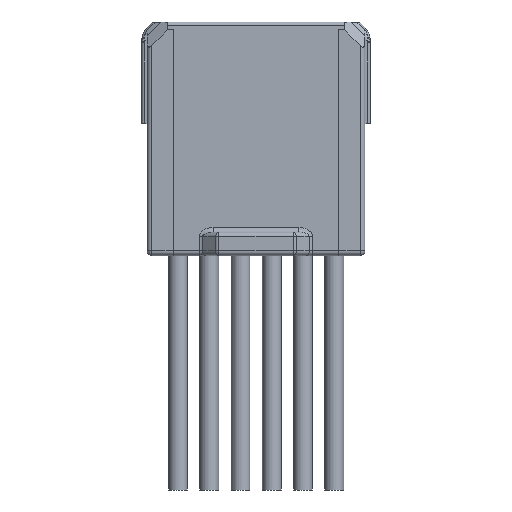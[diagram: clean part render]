
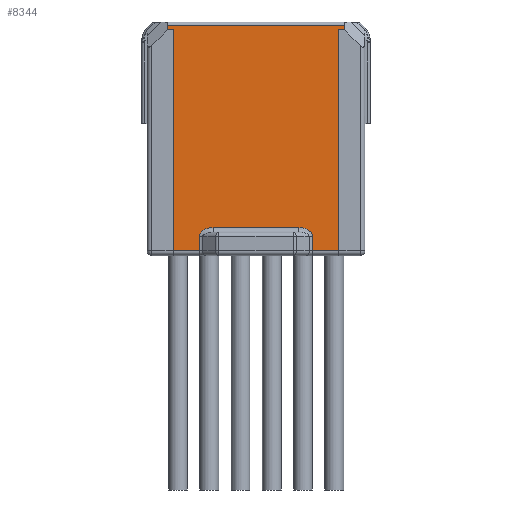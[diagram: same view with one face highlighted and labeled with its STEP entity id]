
A CAD part, front view. The second image highlights one B-rep face of the part: STEP entity #8344.
In plain terms, the highlighted planar face has unit normal (0, -1, 0).
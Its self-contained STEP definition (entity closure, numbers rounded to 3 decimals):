
#83 = VERTEX_POINT ( 'NONE', #7067 ) ;
#476 = CARTESIAN_POINT ( 'NONE',  ( 2.749, 0., -13.15 ) ) ;
#715 = DIRECTION ( 'NONE',  ( -1., 0., 0. ) ) ;
#895 = CARTESIAN_POINT ( 'NONE',  ( -3.62, 0., -13.75 ) ) ;
#1212 =( BOUNDED_CURVE ( )  B_SPLINE_CURVE ( 3, ( #9615, #11994, #9799, #12627 ),
 .UNSPECIFIED., .F., .F. ) 
 B_SPLINE_CURVE_WITH_KNOTS ( ( 4, 4 ),
 ( 0., 1.571 ),
 .UNSPECIFIED. ) 
 CURVE ( )  GEOMETRIC_REPRESENTATION_ITEM ( )  RATIONAL_B_SPLINE_CURVE ( ( 1., 0.805, 0.805, 1. ) ) 
 REPRESENTATION_ITEM ( '' )  );
#1484 = CARTESIAN_POINT ( 'NONE',  ( 6.975, 0., -14.65 ) ) ;
#1527 = DIRECTION ( 'NONE',  ( 1., 0., 0. ) ) ;
#1772 = LINE ( 'NONE', #4763, #14912 ) ;
#2126 = EDGE_CURVE ( 'NONE', #83, #5422, #9607, .T. ) ;
#2258 = EDGE_CURVE ( 'NONE', #3281, #2411, #5616, .T. ) ;
#2411 = VERTEX_POINT ( 'NONE', #16722 ) ;
#2510 = CARTESIAN_POINT ( 'NONE',  ( 3.62, 0., -14.95 ) ) ;
#2842 = EDGE_CURVE ( 'NONE', #4224, #11068, #4931, .T. ) ;
#2905 = AXIS2_PLACEMENT_3D ( 'NONE', #10283, #10604, #9261 ) ;
#3281 = VERTEX_POINT ( 'NONE', #7362 ) ;
#3294 = VECTOR ( 'NONE', #17857, 1000. ) ;
#3525 = FACE_OUTER_BOUND ( 'NONE', #6741, .T. ) ;
#3570 = VERTEX_POINT ( 'NONE', #476 ) ;
#3609 = VECTOR ( 'NONE', #12554, 1000. ) ;
#3653 = LINE ( 'NONE', #2510, #4029 ) ;
#3755 = ORIENTED_EDGE ( 'NONE', *, *, #9395, .F. ) ;
#4004 = ORIENTED_EDGE ( 'NONE', *, *, #2126, .T. ) ;
#4029 = VECTOR ( 'NONE', #7274, 1000. ) ;
#4050 = EDGE_CURVE ( 'NONE', #17384, #83, #3653, .T. ) ;
#4067 = CARTESIAN_POINT ( 'NONE',  ( 5.3, 0., -0.5 ) ) ;
#4172 =( BOUNDED_CURVE ( )  B_SPLINE_CURVE ( 3, ( #4785, #14693, #4209, #895 ),
 .UNSPECIFIED., .F., .T. ) 
 B_SPLINE_CURVE_WITH_KNOTS ( ( 4, 4 ),
 ( 1.571, 3.142 ),
 .UNSPECIFIED. ) 
 CURVE ( )  GEOMETRIC_REPRESENTATION_ITEM ( )  RATIONAL_B_SPLINE_CURVE ( ( 1., 0.805, 0.805, 1. ) ) 
 REPRESENTATION_ITEM ( '' )  );
#4209 = CARTESIAN_POINT ( 'NONE',  ( -3.62, 0., -13.399 ) ) ;
#4210 = ORIENTED_EDGE ( 'NONE', *, *, #4050, .T. ) ;
#4224 = VERTEX_POINT ( 'NONE', #6723 ) ;
#4670 = VECTOR ( 'NONE', #17535, 1000. ) ;
#4676 = PLANE ( 'NONE',  #2905 ) ;
#4763 = CARTESIAN_POINT ( 'NONE',  ( -3.62, 0., -13.45 ) ) ;
#4785 = CARTESIAN_POINT ( 'NONE',  ( -2.749, 0., -13.15 ) ) ;
#4886 = VECTOR ( 'NONE', #10884, 1000. ) ;
#4931 = LINE ( 'NONE', #5619, #10400 ) ;
#4940 = DIRECTION ( 'NONE',  ( -1., 0., 0. ) ) ;
#5286 = DIRECTION ( 'NONE',  ( 0., 0., 1. ) ) ;
#5422 = VERTEX_POINT ( 'NONE', #6225 ) ;
#5456 = ORIENTED_EDGE ( 'NONE', *, *, #12416, .T. ) ;
#5486 = VERTEX_POINT ( 'NONE', #14047 ) ;
#5616 = LINE ( 'NONE', #14448, #10249 ) ;
#5619 = CARTESIAN_POINT ( 'NONE',  ( -5.69, 0., -0.5 ) ) ;
#5893 = CARTESIAN_POINT ( 'NONE',  ( 6.975, 0., -13.15 ) ) ;
#6225 = CARTESIAN_POINT ( 'NONE',  ( 5.3, 0., -14.65 ) ) ;
#6243 = ORIENTED_EDGE ( 'NONE', *, *, #6799, .T. ) ;
#6263 = EDGE_CURVE ( 'NONE', #14240, #2411, #12487, .T. ) ;
#6580 = ORIENTED_EDGE ( 'NONE', *, *, #2842, .F. ) ;
#6677 = DIRECTION ( 'NONE',  ( 1., 0., 0. ) ) ;
#6723 = CARTESIAN_POINT ( 'NONE',  ( -5.3, 0., -0.5 ) ) ;
#6741 = EDGE_LOOP ( 'NONE', ( #14169, #13332, #16433, #6243, #16947, #6580, #8052, #17239, #5456, #3755, #11225, #9238, #4210, #4004 ) ) ;
#6752 = CARTESIAN_POINT ( 'NONE',  ( 6.975, 0., -14.65 ) ) ;
#6799 = EDGE_CURVE ( 'NONE', #3281, #10873, #7185, .T. ) ;
#7000 = LINE ( 'NONE', #6752, #11064 ) ;
#7067 = CARTESIAN_POINT ( 'NONE',  ( 3.62, 0., -14.65 ) ) ;
#7185 = LINE ( 'NONE', #17354, #9497 ) ;
#7254 = CARTESIAN_POINT ( 'NONE',  ( -5.69, 0., -6.05 ) ) ;
#7274 = DIRECTION ( 'NONE',  ( 0., 0., -1. ) ) ;
#7362 = CARTESIAN_POINT ( 'NONE',  ( 5.69, 0., -0.2 ) ) ;
#7624 = LINE ( 'NONE', #5893, #13793 ) ;
#7813 = CARTESIAN_POINT ( 'NONE',  ( -5.69, 0., -0.5 ) ) ;
#8052 = ORIENTED_EDGE ( 'NONE', *, *, #17762, .F. ) ;
#8259 = VERTEX_POINT ( 'NONE', #9075 ) ;
#8344 = ADVANCED_FACE ( 'NONE', ( #3525 ), #4676, .T. ) ;
#9075 = CARTESIAN_POINT ( 'NONE',  ( -3.62, 0., -13.75 ) ) ;
#9238 = ORIENTED_EDGE ( 'NONE', *, *, #9885, .F. ) ;
#9261 = DIRECTION ( 'NONE',  ( 1., 0., 0. ) ) ;
#9395 = EDGE_CURVE ( 'NONE', #10573, #8259, #4172, .T. ) ;
#9497 = VECTOR ( 'NONE', #715, 1000. ) ;
#9573 = CARTESIAN_POINT ( 'NONE',  ( 3.62, 0., -13.75 ) ) ;
#9607 = LINE ( 'NONE', #1484, #12502 ) ;
#9615 = CARTESIAN_POINT ( 'NONE',  ( 3.62, 0., -13.75 ) ) ;
#9799 = CARTESIAN_POINT ( 'NONE',  ( 3.259, 0., -13.15 ) ) ;
#9885 = EDGE_CURVE ( 'NONE', #17384, #3570, #1212, .T. ) ;
#9931 = DIRECTION ( 'NONE',  ( 0., 0., -1. ) ) ;
#10249 = VECTOR ( 'NONE', #9931, 1000. ) ;
#10283 = CARTESIAN_POINT ( 'NONE',  ( 6.975, 0., -14.95 ) ) ;
#10400 = VECTOR ( 'NONE', #4940, 1000. ) ;
#10573 = VERTEX_POINT ( 'NONE', #14559 ) ;
#10604 = DIRECTION ( 'NONE',  ( 0., -1., 0. ) ) ;
#10727 = CARTESIAN_POINT ( 'NONE',  ( 5.69, 0., -0.5 ) ) ;
#10873 = VERTEX_POINT ( 'NONE', #14595 ) ;
#10884 = DIRECTION ( 'NONE',  ( 1., 0., 0. ) ) ;
#11064 = VECTOR ( 'NONE', #6677, 1000. ) ;
#11068 = VERTEX_POINT ( 'NONE', #7813 ) ;
#11225 = ORIENTED_EDGE ( 'NONE', *, *, #17707, .T. ) ;
#11605 = EDGE_CURVE ( 'NONE', #10873, #11068, #15006, .T. ) ;
#11726 = LINE ( 'NONE', #12400, #3609 ) ;
#11994 = CARTESIAN_POINT ( 'NONE',  ( 3.62, 0., -13.399 ) ) ;
#12400 = CARTESIAN_POINT ( 'NONE',  ( 5.3, 0., -14.95 ) ) ;
#12416 = EDGE_CURVE ( 'NONE', #15350, #8259, #1772, .T. ) ;
#12487 = LINE ( 'NONE', #10727, #4886 ) ;
#12502 = VECTOR ( 'NONE', #1527, 1000. ) ;
#12554 = DIRECTION ( 'NONE',  ( 0., 0., 1. ) ) ;
#12627 = CARTESIAN_POINT ( 'NONE',  ( 2.749, 0., -13.15 ) ) ;
#13332 = ORIENTED_EDGE ( 'NONE', *, *, #6263, .T. ) ;
#13793 = VECTOR ( 'NONE', #16803, 1000. ) ;
#14034 = LINE ( 'NONE', #17663, #4670 ) ;
#14047 = CARTESIAN_POINT ( 'NONE',  ( -5.3, 0., -14.65 ) ) ;
#14169 = ORIENTED_EDGE ( 'NONE', *, *, #15147, .T. ) ;
#14240 = VERTEX_POINT ( 'NONE', #4067 ) ;
#14448 = CARTESIAN_POINT ( 'NONE',  ( 5.69, 0., -6.05 ) ) ;
#14559 = CARTESIAN_POINT ( 'NONE',  ( -2.749, 0., -13.15 ) ) ;
#14595 = CARTESIAN_POINT ( 'NONE',  ( -5.69, 0., -0.2 ) ) ;
#14693 = CARTESIAN_POINT ( 'NONE',  ( -3.259, 0., -13.15 ) ) ;
#14912 = VECTOR ( 'NONE', #5286, 1000. ) ;
#15006 = LINE ( 'NONE', #7254, #3294 ) ;
#15147 = EDGE_CURVE ( 'NONE', #5422, #14240, #11726, .T. ) ;
#15347 = CARTESIAN_POINT ( 'NONE',  ( -3.62, 0., -14.65 ) ) ;
#15350 = VERTEX_POINT ( 'NONE', #15347 ) ;
#16433 = ORIENTED_EDGE ( 'NONE', *, *, #2258, .F. ) ;
#16463 = EDGE_CURVE ( 'NONE', #5486, #15350, #7000, .T. ) ;
#16722 = CARTESIAN_POINT ( 'NONE',  ( 5.69, 0., -0.5 ) ) ;
#16803 = DIRECTION ( 'NONE',  ( 1., 0., 0. ) ) ;
#16947 = ORIENTED_EDGE ( 'NONE', *, *, #11605, .T. ) ;
#17239 = ORIENTED_EDGE ( 'NONE', *, *, #16463, .T. ) ;
#17354 = CARTESIAN_POINT ( 'NONE',  ( -2.7, 0., -0.2 ) ) ;
#17384 = VERTEX_POINT ( 'NONE', #9573 ) ;
#17535 = DIRECTION ( 'NONE',  ( 0., 0., 1. ) ) ;
#17663 = CARTESIAN_POINT ( 'NONE',  ( -5.3, 0., -14.95 ) ) ;
#17707 = EDGE_CURVE ( 'NONE', #10573, #3570, #7624, .T. ) ;
#17762 = EDGE_CURVE ( 'NONE', #5486, #4224, #14034, .T. ) ;
#17857 = DIRECTION ( 'NONE',  ( 0., 0., -1. ) ) ;
